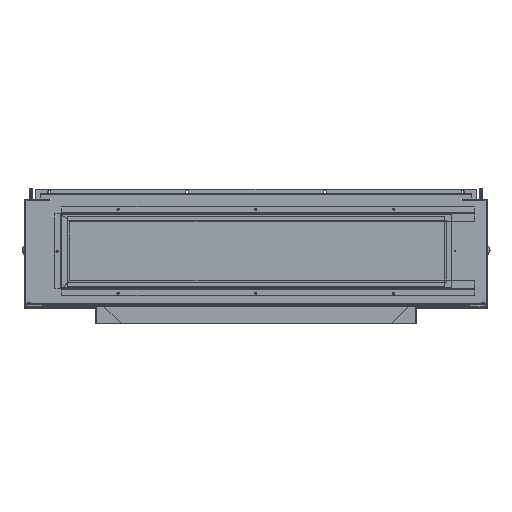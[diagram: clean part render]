
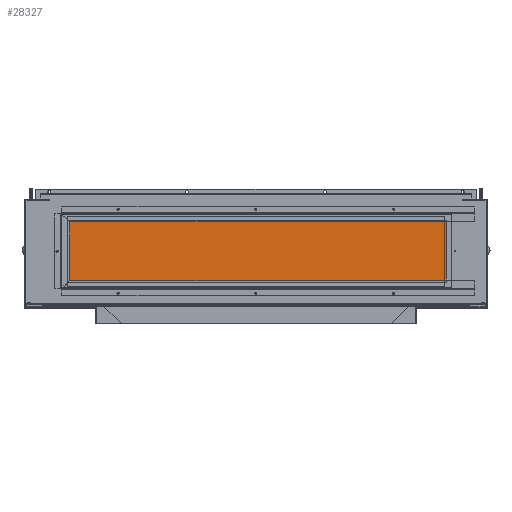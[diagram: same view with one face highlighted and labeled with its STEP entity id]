
A CAD part, front view. The second image highlights one B-rep face of the part: STEP entity #28327.
In plain terms, the highlighted planar face has unit normal (0, -1, 0).
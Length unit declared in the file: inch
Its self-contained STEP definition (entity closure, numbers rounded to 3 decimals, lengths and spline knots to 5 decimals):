
#13468 = CARTESIAN_POINT ( 'NONE',  ( -14.37335, -33.14741, 9.91618 ) ) ;
#17396 = VERTEX_POINT ( 'NONE', #180790 ) ;
#25047 = ORIENTED_EDGE ( 'NONE', *, *, #71335, .F. ) ;
#25339 = ORIENTED_EDGE ( 'NONE', *, *, #93216, .F. ) ;
#27068 = ORIENTED_EDGE ( 'NONE', *, *, #50518, .F. ) ;
#28327 = ADVANCED_FACE ( 'NONE', ( #162966 ), #49015, .F. ) ;
#28729 = VECTOR ( 'NONE', #58878, 39.37008 ) ;
#34316 = DIRECTION ( 'NONE',  ( 0., 0., -1. ) ) ;
#42437 = CARTESIAN_POINT ( 'NONE',  ( -14.37335, -33.14741, 9.91618 ) ) ;
#46583 = LINE ( 'NONE', #148162, #89772 ) ;
#49015 = PLANE ( 'NONE',  #93293 ) ;
#50518 = EDGE_CURVE ( 'NONE', #198922, #105635, #46583, .T. ) ;
#54616 = ORIENTED_EDGE ( 'NONE', *, *, #171814, .F. ) ;
#58878 = DIRECTION ( 'NONE',  ( 1., 0., 0. ) ) ;
#66017 = CARTESIAN_POINT ( 'NONE',  ( 2.12665, -33.14741, 7.22868 ) ) ;
#71335 = EDGE_CURVE ( 'NONE', #105635, #17396, #119335, .T. ) ;
#77123 = LINE ( 'NONE', #42437, #28729 ) ;
#77908 = VERTEX_POINT ( 'NONE', #100233 ) ;
#79599 = LINE ( 'NONE', #13468, #122843 ) ;
#82323 = DIRECTION ( 'NONE',  ( -1., 0., 0. ) ) ;
#82994 = DIRECTION ( 'NONE',  ( -1., 0., 0. ) ) ;
#89772 = VECTOR ( 'NONE', #34316, 39.37008 ) ;
#93216 = EDGE_CURVE ( 'NONE', #77908, #198922, #77123, .T. ) ;
#93293 = AXIS2_PLACEMENT_3D ( 'NONE', #66017, #179874, #82323 ) ;
#100233 = CARTESIAN_POINT ( 'NONE',  ( -14.37335, -33.14741, 9.91618 ) ) ;
#104581 = EDGE_LOOP ( 'NONE', ( #27068, #25339, #54616, #25047 ) ) ;
#105635 = VERTEX_POINT ( 'NONE', #172572 ) ;
#111012 = DIRECTION ( 'NONE',  ( 0., 0., 1. ) ) ;
#112648 = CARTESIAN_POINT ( 'NONE',  ( 18.62665, -33.14742, 9.91618 ) ) ;
#119335 = LINE ( 'NONE', #131366, #200970 ) ;
#122843 = VECTOR ( 'NONE', #111012, 39.37008 ) ;
#131366 = CARTESIAN_POINT ( 'NONE',  ( -14.37335, -33.14741, 4.54118 ) ) ;
#148162 = CARTESIAN_POINT ( 'NONE',  ( 18.62665, -33.14742, 9.91618 ) ) ;
#162966 = FACE_OUTER_BOUND ( 'NONE', #104581, .T. ) ;
#171814 = EDGE_CURVE ( 'NONE', #17396, #77908, #79599, .T. ) ;
#172572 = CARTESIAN_POINT ( 'NONE',  ( 18.62665, -33.14742, 4.54118 ) ) ;
#179874 = DIRECTION ( 'NONE',  ( 0., 1., 0. ) ) ;
#180790 = CARTESIAN_POINT ( 'NONE',  ( -14.37335, -33.14741, 4.54118 ) ) ;
#198922 = VERTEX_POINT ( 'NONE', #112648 ) ;
#200970 = VECTOR ( 'NONE', #82994, 39.37008 ) ;
